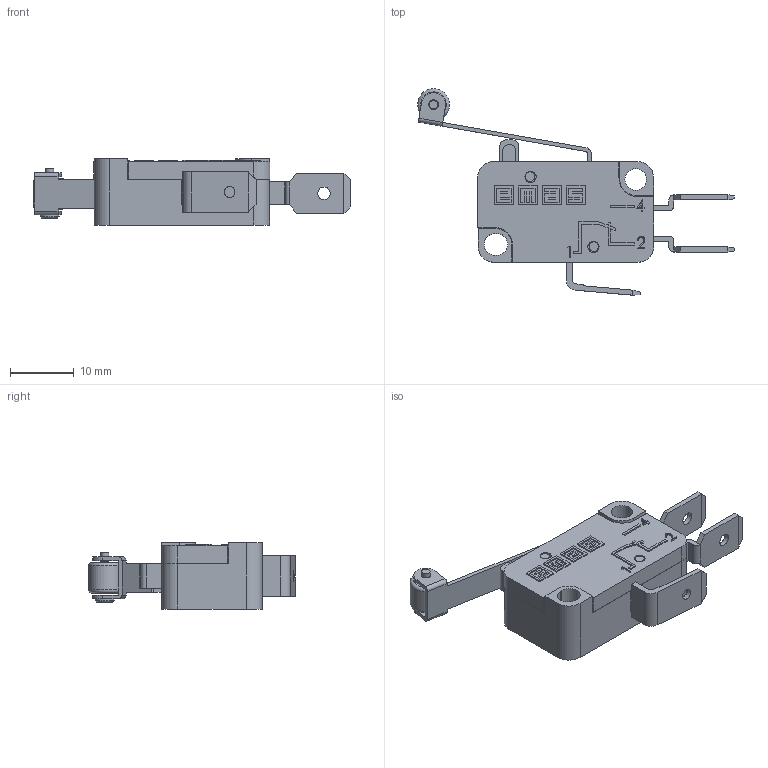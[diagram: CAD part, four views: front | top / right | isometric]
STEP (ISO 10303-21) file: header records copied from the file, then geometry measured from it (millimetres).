
FILE_DESCRIPTION((''),'2; 1');
FILE_NAME('','2026-03-27T16:21:26',(''),(''),'CST STEP Exporter V1.0','Unknown','');
FILE_SCHEMA(('CONFIG_CONTROL_DESIGN'));
Length unit declared in the file: metre
Assembly tree (12 placements, depth 2):
  (unnamed)
    (unnamed)
    (unnamed)
    (unnamed)
    (unnamed)
    (unnamed)
    (unnamed)
    (unnamed)
    (unnamed)
    (unnamed)
    (unnamed)
    (unnamed)
    (unnamed)
Bounding box: 49.8 x 32.46 x 10.4 mm (x, y, z)
Surface area: 7625.8 mm2 (no closed solid volume)
Topology: 0 solids, 12 shells, 305 faces, 1089 edges, 808 vertices
Faces by surface type: plane 252, cylinder 44, extrusion 6, torus 2, cone 1
Full cylindrical faces by diameter (mm): 1.3 x1, 1.5 x3, 1.7 x1, 1.75 x2, 1.95 x2, 3 x1, 3.4 x1, 5 x1
Entity records: 14254 total; most frequent: CARTESIAN_POINT 2363, DIRECTION 1830, ORIENTED_EDGE 1786, EDGE_CURVE 1070, VECTOR 876, LINE 870, VERTEX_POINT 804, AXIS2_PLACEMENT_3D 477
